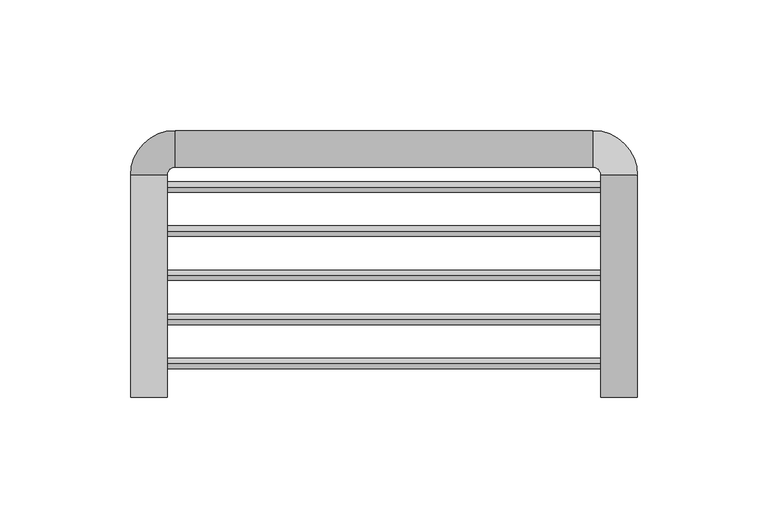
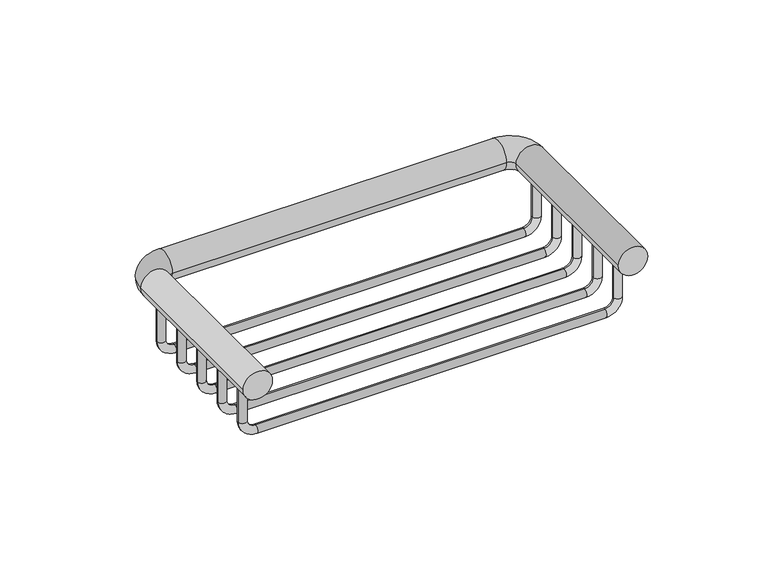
"""IFC4 building model written with IfcOpenShell, lengths in millimetres: flow terminal geometry, jabonera rejilla : jabonera rejilla."""

from ifc_helpers import new_model, si_unit, point, frame, origin, place, context, project, spatial, circle_curve, ellipse_curve, trimmed, source, transform, mapped, element, save
from ifc_brep_helpers import plane_surface, cylinder_surface, revolved_surface, advanced_brep


def flow_terminal_4fa0bb3f(model_context):
    return source(origin(), model_context, "Body", "AdvancedBrep", [
        advanced_brep(
        [(-92.0, 80.3848902, -7.0), (-88.0, 80.3848902, -7.0), (-88.0, 80.3848902, -25.787739), (-92.0, 80.3848902, -25.787739), (-83.787739, 80.3848902, -30.0), (-83.787739, 80.3848902, -34.0), (83.787739, 80.3848902, -30.0), (83.787739, 80.3848902, -34.0), (88.0, 80.3848902, -25.787739), (92.0, 80.3848902, -25.787739), (92.0, 80.3848902, -7.0), (88.0, 80.3848902, -7.0)],
        [
            (0, 1, circle_curve(frame((-90.0, 80.3848902, -7.0), z_axis=(0.0, 0.0, 1.0), x_axis=(1.0, 0.0, 0.0)), 2.0)),
            (1, 0, circle_curve(frame((-90.0, 80.3848902, -7.0), z_axis=(0.0, 0.0, 1.0), x_axis=(1.0, 0.0, 0.0)), 2.0)),
            (1, 2),
            (2, 3, circle_curve(frame((-90.0, 80.3848902, -25.787739), z_axis=(0.0, 0.0, 1.0), x_axis=(1.0, 0.0, 0.0)), 2.0)),
            (3, 0),
            (3, 2, circle_curve(frame((-90.0, 80.3848902, -25.787739), z_axis=(0.0, 0.0, 1.0), x_axis=(1.0, 0.0, 0.0)), 2.0)),
            (4, 5, circle_curve(frame((-83.787739, 80.3848902, -32.0), z_axis=(-1.0, 0.0, 0.0), x_axis=(0.0, 0.0, 1.0)), 2.0)),
            (5, 3, circle_curve(frame((-83.787739, 80.3848902, -25.787739), z_axis=(0.0, 1.0, 0.0), x_axis=(-1.0, 0.0, 0.0)), 8.212261)),
            (2, 4, circle_curve(frame((-83.787739, 80.3848902, -25.787739), z_axis=(0.0, -1.0, 0.0), x_axis=(-1.0, 0.0, 0.0)), 4.212261)),
            (5, 4, circle_curve(frame((-83.787739, 80.3848902, -32.0), z_axis=(-1.0, 0.0, 0.0), x_axis=(0.0, 0.0, 1.0)), 2.0)),
            (4, 6),
            (6, 7, circle_curve(frame((83.787739, 80.3848902, -32.0), z_axis=(-1.0, 0.0, 0.0), x_axis=(0.0, 0.0, 1.0)), 2.0)),
            (7, 5),
            (7, 6, circle_curve(frame((83.787739, 80.3848902, -32.0), z_axis=(-1.0, 0.0, 0.0), x_axis=(0.0, 0.0, 1.0)), 2.0)),
            (8, 9, circle_curve(frame((90.0, 80.3848902, -25.787739), z_axis=(0.0, 0.0, -1.0), x_axis=(-1.0, 0.0, 0.0)), 2.0)),
            (9, 7, circle_curve(frame((83.787739, 80.3848902, -25.787739), z_axis=(0.0, 1.0, 0.0), x_axis=(0.0, 0.0, -1.0)), 8.212261)),
            (6, 8, circle_curve(frame((83.787739, 80.3848902, -25.787739), z_axis=(0.0, -1.0, 0.0), x_axis=(0.0, 0.0, -1.0)), 4.212261)),
            (9, 8, circle_curve(frame((90.0, 80.3848902, -25.787739), z_axis=(0.0, 0.0, -1.0), x_axis=(-1.0, 0.0, 0.0)), 2.0)),
            (10, 11, circle_curve(frame((90.0, 80.3848902, -7.0), z_axis=(0.0, 0.0, 1.0), x_axis=(-1.0, 0.0, 0.0)), 2.0)),
            (11, 10, circle_curve(frame((90.0, 80.3848902, -7.0), z_axis=(0.0, 0.0, 1.0), x_axis=(-1.0, 0.0, 0.0)), 2.0)),
            (8, 11),
            (10, 9),
        ],
        [
            plane_surface(frame((-90.0, 80.3848902, -7.0), z_axis=(0.0, 0.0, 1.0), x_axis=(0.0, 1.0, 0.0))),
            cylinder_surface(frame((-90.0, 80.3848902, -7.0), z_axis=(0.0, 0.0, 1.0), x_axis=(1.0, 0.0, 0.0)), 2.0),
            revolved_surface(trimmed(ellipse_curve(frame((-90.0, 80.3848902, -25.787739), z_axis=(0.0, 0.0, -1.0), x_axis=(1.0, 0.0, 0.0)), 2.0, 2.0), [point((-92.0, 80.3848902, -25.787739))], [point((-88.0, 80.3848902, -25.787739))], True, "CARTESIAN"), (-83.787739, 80.3848902, -25.787739), (0.0, 1.0, 0.0)),
            revolved_surface(trimmed(ellipse_curve(frame((-90.0, 80.3848902, -25.787739), z_axis=(0.0, 0.0, -1.0), x_axis=(1.0, 0.0, 0.0)), 2.0, 2.0), [point((-88.0, 80.3848902, -25.787739))], [point((-92.0, 80.3848902, -25.787739))], True, "CARTESIAN"), (-83.787739, 80.3848902, -25.787739), (0.0, 1.0, 0.0)),
            cylinder_surface(frame((-83.787739, 80.3848902, -32.0), z_axis=(-1.0, 0.0, 0.0), x_axis=(0.0, 0.0, 1.0)), 2.0),
            revolved_surface(trimmed(ellipse_curve(frame((83.787739, 80.3848902, -32.0), z_axis=(1.0, 0.0, 0.0), x_axis=(0.0, 0.0, 1.0)), 2.0, 2.0), [point((83.787739, 80.3848902, -34.0))], [point((83.787739, 80.3848902, -30.0))], True, "CARTESIAN"), (83.787739, 80.3848902, -25.787739), (0.0, 1.0, 0.0)),
            revolved_surface(trimmed(ellipse_curve(frame((83.787739, 80.3848902, -32.0), z_axis=(1.0, 0.0, 0.0), x_axis=(0.0, 0.0, 1.0)), 2.0, 2.0), [point((83.787739, 80.3848902, -30.0))], [point((83.787739, 80.3848902, -34.0))], True, "CARTESIAN"), (83.787739, 80.3848902, -25.787739), (0.0, 1.0, 0.0)),
            plane_surface(frame((90.0, 80.3848902, -7.0), z_axis=(0.0, 0.0, 1.0), x_axis=(0.0, 1.0, 0.0))),
            cylinder_surface(frame((90.0, 80.3848902, -25.787739), z_axis=(0.0, 0.0, -1.0), x_axis=(-1.0, 0.0, 0.0)), 2.0),
        ],
        [
            (0, [[1, 2]]),
            (1, [[3, 4, 5, -2]]),
            (1, [[-5, 6, -3, -1]]),
            (2, [[7, 8, -4, 9]]),
            (3, [[10, -9, -6, -8]]),
            (4, [[11, 12, 13, -7]]),
            (4, [[-13, 14, -11, -10]]),
            (5, [[15, 16, -12, 17]]),
            (6, [[18, -17, -14, -16]]),
            (7, [[19, 20]]),
            (8, [[21, -19, 22, -15]]),
            (8, [[-22, -20, -21, -18]]),
        ],
    ),
        advanced_brep(
        [(-92.0, 63.5030123, -7.0), (-88.0, 63.5030123, -7.0), (-88.0, 63.5030123, -25.787739), (-92.0, 63.5030123, -25.787739), (-83.787739, 63.5030123, -30.0), (-83.787739, 63.5030123, -34.0), (83.787739, 63.5030123, -30.0), (83.787739, 63.5030123, -34.0), (88.0, 63.5030123, -25.787739), (92.0, 63.5030123, -25.787739), (92.0, 63.5030123, -7.0), (88.0, 63.5030123, -7.0)],
        [
            (0, 1, circle_curve(frame((-90.0, 63.5030123, -7.0), z_axis=(0.0, 0.0, 1.0), x_axis=(1.0, 0.0, 0.0)), 2.0)),
            (1, 0, circle_curve(frame((-90.0, 63.5030123, -7.0), z_axis=(0.0, 0.0, 1.0), x_axis=(1.0, 0.0, 0.0)), 2.0)),
            (1, 2),
            (2, 3, circle_curve(frame((-90.0, 63.5030123, -25.787739), z_axis=(0.0, 0.0, 1.0), x_axis=(1.0, 0.0, 0.0)), 2.0)),
            (3, 0),
            (3, 2, circle_curve(frame((-90.0, 63.5030123, -25.787739), z_axis=(0.0, 0.0, 1.0), x_axis=(1.0, 0.0, 0.0)), 2.0)),
            (4, 5, circle_curve(frame((-83.787739, 63.5030123, -32.0), z_axis=(-1.0, 0.0, 0.0), x_axis=(0.0, 0.0, 1.0)), 2.0)),
            (5, 3, circle_curve(frame((-83.787739, 63.5030123, -25.787739), z_axis=(0.0, 1.0, 0.0), x_axis=(-1.0, 0.0, 0.0)), 8.212261)),
            (2, 4, circle_curve(frame((-83.787739, 63.5030123, -25.787739), z_axis=(0.0, -1.0, 0.0), x_axis=(-1.0, 0.0, 0.0)), 4.212261)),
            (5, 4, circle_curve(frame((-83.787739, 63.5030123, -32.0), z_axis=(-1.0, 0.0, 0.0), x_axis=(0.0, 0.0, 1.0)), 2.0)),
            (4, 6),
            (6, 7, circle_curve(frame((83.787739, 63.5030123, -32.0), z_axis=(-1.0, 0.0, 0.0), x_axis=(0.0, 0.0, 1.0)), 2.0)),
            (7, 5),
            (7, 6, circle_curve(frame((83.787739, 63.5030123, -32.0), z_axis=(-1.0, 0.0, 0.0), x_axis=(0.0, 0.0, 1.0)), 2.0)),
            (8, 9, circle_curve(frame((90.0, 63.5030123, -25.787739), z_axis=(0.0, 0.0, -1.0), x_axis=(-1.0, 0.0, 0.0)), 2.0)),
            (9, 7, circle_curve(frame((83.787739, 63.5030123, -25.787739), z_axis=(0.0, 1.0, 0.0), x_axis=(0.0, 0.0, -1.0)), 8.212261)),
            (6, 8, circle_curve(frame((83.787739, 63.5030123, -25.787739), z_axis=(0.0, -1.0, 0.0), x_axis=(0.0, 0.0, -1.0)), 4.212261)),
            (9, 8, circle_curve(frame((90.0, 63.5030123, -25.787739), z_axis=(0.0, 0.0, -1.0), x_axis=(-1.0, 0.0, 0.0)), 2.0)),
            (10, 11, circle_curve(frame((90.0, 63.5030123, -7.0), z_axis=(0.0, 0.0, 1.0), x_axis=(-1.0, 0.0, 0.0)), 2.0)),
            (11, 10, circle_curve(frame((90.0, 63.5030123, -7.0), z_axis=(0.0, 0.0, 1.0), x_axis=(-1.0, 0.0, 0.0)), 2.0)),
            (8, 11),
            (10, 9),
        ],
        [
            plane_surface(frame((-90.0, 63.5030123, -7.0), z_axis=(0.0, 0.0, 1.0), x_axis=(0.0, 1.0, 0.0))),
            cylinder_surface(frame((-90.0, 63.5030123, -7.0), z_axis=(0.0, 0.0, 1.0), x_axis=(1.0, 0.0, 0.0)), 2.0),
            revolved_surface(trimmed(ellipse_curve(frame((-90.0, 63.5030123, -25.787739), z_axis=(0.0, 0.0, -1.0), x_axis=(1.0, 0.0, 0.0)), 2.0, 2.0), [point((-92.0, 63.5030123, -25.787739))], [point((-88.0, 63.5030123, -25.787739))], True, "CARTESIAN"), (-83.787739, 63.5030123, -25.787739), (0.0, 1.0, 0.0)),
            revolved_surface(trimmed(ellipse_curve(frame((-90.0, 63.5030123, -25.787739), z_axis=(0.0, 0.0, -1.0), x_axis=(1.0, 0.0, 0.0)), 2.0, 2.0), [point((-88.0, 63.5030123, -25.787739))], [point((-92.0, 63.5030123, -25.787739))], True, "CARTESIAN"), (-83.787739, 63.5030123, -25.787739), (0.0, 1.0, 0.0)),
            cylinder_surface(frame((-83.787739, 63.5030123, -32.0), z_axis=(-1.0, 0.0, 0.0), x_axis=(0.0, 0.0, 1.0)), 2.0),
            revolved_surface(trimmed(ellipse_curve(frame((83.787739, 63.5030123, -32.0), z_axis=(1.0, 0.0, 0.0), x_axis=(0.0, 0.0, 1.0)), 2.0, 2.0), [point((83.787739, 63.5030123, -34.0))], [point((83.787739, 63.5030123, -30.0))], True, "CARTESIAN"), (83.787739, 63.5030123, -25.787739), (0.0, 1.0, 0.0)),
            revolved_surface(trimmed(ellipse_curve(frame((83.787739, 63.5030123, -32.0), z_axis=(1.0, 0.0, 0.0), x_axis=(0.0, 0.0, 1.0)), 2.0, 2.0), [point((83.787739, 63.5030123, -30.0))], [point((83.787739, 63.5030123, -34.0))], True, "CARTESIAN"), (83.787739, 63.5030123, -25.787739), (0.0, 1.0, 0.0)),
            plane_surface(frame((90.0, 63.5030123, -7.0), z_axis=(0.0, 0.0, 1.0), x_axis=(0.0, 1.0, 0.0))),
            cylinder_surface(frame((90.0, 63.5030123, -25.787739), z_axis=(0.0, 0.0, -1.0), x_axis=(-1.0, 0.0, 0.0)), 2.0),
        ],
        [
            (0, [[1, 2]]),
            (1, [[3, 4, 5, -2]]),
            (1, [[-5, 6, -3, -1]]),
            (2, [[7, 8, -4, 9]]),
            (3, [[10, -9, -6, -8]]),
            (4, [[11, 12, 13, -7]]),
            (4, [[-13, 14, -11, -10]]),
            (5, [[15, 16, -12, 17]]),
            (6, [[18, -17, -14, -16]]),
            (7, [[19, 20]]),
            (8, [[21, -19, 22, -15]]),
            (8, [[-22, -20, -21, -18]]),
        ],
    ),
        advanced_brep(
        [(-92.0, 46.6211345, -7.0), (-88.0, 46.6211345, -7.0), (-88.0, 46.6211345, -25.787739), (-92.0, 46.6211345, -25.787739), (-83.787739, 46.6211345, -30.0), (-83.787739, 46.6211345, -34.0), (83.787739, 46.6211345, -30.0), (83.787739, 46.6211345, -34.0), (88.0, 46.6211345, -25.787739), (92.0, 46.6211345, -25.787739), (92.0, 46.6211345, -7.0), (88.0, 46.6211345, -7.0)],
        [
            (0, 1, circle_curve(frame((-90.0, 46.6211345, -7.0), z_axis=(0.0, 0.0, 1.0), x_axis=(1.0, 0.0, 0.0)), 2.0)),
            (1, 0, circle_curve(frame((-90.0, 46.6211345, -7.0), z_axis=(0.0, 0.0, 1.0), x_axis=(1.0, 0.0, 0.0)), 2.0)),
            (1, 2),
            (2, 3, circle_curve(frame((-90.0, 46.6211345, -25.787739), z_axis=(0.0, 0.0, 1.0), x_axis=(1.0, 0.0, 0.0)), 2.0)),
            (3, 0),
            (3, 2, circle_curve(frame((-90.0, 46.6211345, -25.787739), z_axis=(0.0, 0.0, 1.0), x_axis=(1.0, 0.0, 0.0)), 2.0)),
            (4, 5, circle_curve(frame((-83.787739, 46.6211345, -32.0), z_axis=(-1.0, 0.0, 0.0), x_axis=(0.0, 0.0, 1.0)), 2.0)),
            (5, 3, circle_curve(frame((-83.787739, 46.6211345, -25.787739), z_axis=(0.0, 1.0, 0.0), x_axis=(-1.0, 0.0, 0.0)), 8.212261)),
            (2, 4, circle_curve(frame((-83.787739, 46.6211345, -25.787739), z_axis=(0.0, -1.0, 0.0), x_axis=(-1.0, 0.0, 0.0)), 4.212261)),
            (5, 4, circle_curve(frame((-83.787739, 46.6211345, -32.0), z_axis=(-1.0, 0.0, 0.0), x_axis=(0.0, 0.0, 1.0)), 2.0)),
            (4, 6),
            (6, 7, circle_curve(frame((83.787739, 46.6211345, -32.0), z_axis=(-1.0, 0.0, 0.0), x_axis=(0.0, 0.0, 1.0)), 2.0)),
            (7, 5),
            (7, 6, circle_curve(frame((83.787739, 46.6211345, -32.0), z_axis=(-1.0, 0.0, 0.0), x_axis=(0.0, 0.0, 1.0)), 2.0)),
            (8, 9, circle_curve(frame((90.0, 46.6211345, -25.787739), z_axis=(0.0, 0.0, -1.0), x_axis=(-1.0, 0.0, 0.0)), 2.0)),
            (9, 7, circle_curve(frame((83.787739, 46.6211345, -25.787739), z_axis=(0.0, 1.0, 0.0), x_axis=(0.0, 0.0, -1.0)), 8.212261)),
            (6, 8, circle_curve(frame((83.787739, 46.6211345, -25.787739), z_axis=(0.0, -1.0, 0.0), x_axis=(0.0, 0.0, -1.0)), 4.212261)),
            (9, 8, circle_curve(frame((90.0, 46.6211345, -25.787739), z_axis=(0.0, 0.0, -1.0), x_axis=(-1.0, 0.0, 0.0)), 2.0)),
            (10, 11, circle_curve(frame((90.0, 46.6211345, -7.0), z_axis=(0.0, 0.0, 1.0), x_axis=(-1.0, 0.0, 0.0)), 2.0)),
            (11, 10, circle_curve(frame((90.0, 46.6211345, -7.0), z_axis=(0.0, 0.0, 1.0), x_axis=(-1.0, 0.0, 0.0)), 2.0)),
            (8, 11),
            (10, 9),
        ],
        [
            plane_surface(frame((-90.0, 46.6211345, -7.0), z_axis=(0.0, 0.0, 1.0), x_axis=(0.0, 1.0, 0.0))),
            cylinder_surface(frame((-90.0, 46.6211345, -7.0), z_axis=(0.0, 0.0, 1.0), x_axis=(1.0, 0.0, 0.0)), 2.0),
            revolved_surface(trimmed(ellipse_curve(frame((-90.0, 46.6211345, -25.787739), z_axis=(0.0, 0.0, -1.0), x_axis=(1.0, 0.0, 0.0)), 2.0, 2.0), [point((-92.0, 46.6211345, -25.787739))], [point((-88.0, 46.6211345, -25.787739))], True, "CARTESIAN"), (-83.787739, 46.6211345, -25.787739), (0.0, 1.0, 0.0)),
            revolved_surface(trimmed(ellipse_curve(frame((-90.0, 46.6211345, -25.787739), z_axis=(0.0, 0.0, -1.0), x_axis=(1.0, 0.0, 0.0)), 2.0, 2.0), [point((-88.0, 46.6211345, -25.787739))], [point((-92.0, 46.6211345, -25.787739))], True, "CARTESIAN"), (-83.787739, 46.6211345, -25.787739), (0.0, 1.0, 0.0)),
            cylinder_surface(frame((-83.787739, 46.6211345, -32.0), z_axis=(-1.0, 0.0, 0.0), x_axis=(0.0, 0.0, 1.0)), 2.0),
            revolved_surface(trimmed(ellipse_curve(frame((83.787739, 46.6211345, -32.0), z_axis=(1.0, 0.0, 0.0), x_axis=(0.0, 0.0, 1.0)), 2.0, 2.0), [point((83.787739, 46.6211345, -34.0))], [point((83.787739, 46.6211345, -30.0))], True, "CARTESIAN"), (83.787739, 46.6211345, -25.787739), (0.0, 1.0, 0.0)),
            revolved_surface(trimmed(ellipse_curve(frame((83.787739, 46.6211345, -32.0), z_axis=(1.0, 0.0, 0.0), x_axis=(0.0, 0.0, 1.0)), 2.0, 2.0), [point((83.787739, 46.6211345, -30.0))], [point((83.787739, 46.6211345, -34.0))], True, "CARTESIAN"), (83.787739, 46.6211345, -25.787739), (0.0, 1.0, 0.0)),
            plane_surface(frame((90.0, 46.6211345, -7.0), z_axis=(0.0, 0.0, 1.0), x_axis=(0.0, 1.0, 0.0))),
            cylinder_surface(frame((90.0, 46.6211345, -25.787739), z_axis=(0.0, 0.0, -1.0), x_axis=(-1.0, 0.0, 0.0)), 2.0),
        ],
        [
            (0, [[1, 2]]),
            (1, [[3, 4, 5, -2]]),
            (1, [[-5, 6, -3, -1]]),
            (2, [[7, 8, -4, 9]]),
            (3, [[10, -9, -6, -8]]),
            (4, [[11, 12, 13, -7]]),
            (4, [[-13, 14, -11, -10]]),
            (5, [[15, 16, -12, 17]]),
            (6, [[18, -17, -14, -16]]),
            (7, [[19, 20]]),
            (8, [[21, -19, 22, -15]]),
            (8, [[-22, -20, -21, -18]]),
        ],
    ),
        advanced_brep(
        [(-92.0, 29.7392566, -7.0), (-88.0, 29.7392566, -7.0), (-88.0, 29.7392566, -25.787739), (-92.0, 29.7392566, -25.787739), (-83.787739, 29.7392566, -30.0), (-83.787739, 29.7392566, -34.0), (83.787739, 29.7392566, -30.0), (83.787739, 29.7392566, -34.0), (88.0, 29.7392566, -25.787739), (92.0, 29.7392566, -25.787739), (92.0, 29.7392566, -7.0), (88.0, 29.7392566, -7.0)],
        [
            (0, 1, circle_curve(frame((-90.0, 29.7392566, -7.0), z_axis=(0.0, 0.0, 1.0), x_axis=(1.0, 0.0, 0.0)), 2.0)),
            (1, 0, circle_curve(frame((-90.0, 29.7392566, -7.0), z_axis=(0.0, 0.0, 1.0), x_axis=(1.0, 0.0, 0.0)), 2.0)),
            (1, 2),
            (2, 3, circle_curve(frame((-90.0, 29.7392566, -25.787739), z_axis=(0.0, 0.0, 1.0), x_axis=(1.0, 0.0, 0.0)), 2.0)),
            (3, 0),
            (3, 2, circle_curve(frame((-90.0, 29.7392566, -25.787739), z_axis=(0.0, 0.0, 1.0), x_axis=(1.0, 0.0, 0.0)), 2.0)),
            (4, 5, circle_curve(frame((-83.787739, 29.7392566, -32.0), z_axis=(-1.0, 0.0, 0.0), x_axis=(0.0, 0.0, 1.0)), 2.0)),
            (5, 3, circle_curve(frame((-83.787739, 29.7392566, -25.787739), z_axis=(0.0, 1.0, 0.0), x_axis=(-1.0, 0.0, 0.0)), 8.212261)),
            (2, 4, circle_curve(frame((-83.787739, 29.7392566, -25.787739), z_axis=(0.0, -1.0, 0.0), x_axis=(-1.0, 0.0, 0.0)), 4.212261)),
            (5, 4, circle_curve(frame((-83.787739, 29.7392566, -32.0), z_axis=(-1.0, 0.0, 0.0), x_axis=(0.0, 0.0, 1.0)), 2.0)),
            (4, 6),
            (6, 7, circle_curve(frame((83.787739, 29.7392566, -32.0), z_axis=(-1.0, 0.0, 0.0), x_axis=(0.0, 0.0, 1.0)), 2.0)),
            (7, 5),
            (7, 6, circle_curve(frame((83.787739, 29.7392566, -32.0), z_axis=(-1.0, 0.0, 0.0), x_axis=(0.0, 0.0, 1.0)), 2.0)),
            (8, 9, circle_curve(frame((90.0, 29.7392566, -25.787739), z_axis=(0.0, 0.0, -1.0), x_axis=(-1.0, 0.0, 0.0)), 2.0)),
            (9, 7, circle_curve(frame((83.787739, 29.7392566, -25.787739), z_axis=(0.0, 1.0, 0.0), x_axis=(0.0, 0.0, -1.0)), 8.212261)),
            (6, 8, circle_curve(frame((83.787739, 29.7392566, -25.787739), z_axis=(0.0, -1.0, 0.0), x_axis=(0.0, 0.0, -1.0)), 4.212261)),
            (9, 8, circle_curve(frame((90.0, 29.7392566, -25.787739), z_axis=(0.0, 0.0, -1.0), x_axis=(-1.0, 0.0, 0.0)), 2.0)),
            (10, 11, circle_curve(frame((90.0, 29.7392566, -7.0), z_axis=(0.0, 0.0, 1.0), x_axis=(-1.0, 0.0, 0.0)), 2.0)),
            (11, 10, circle_curve(frame((90.0, 29.7392566, -7.0), z_axis=(0.0, 0.0, 1.0), x_axis=(-1.0, 0.0, 0.0)), 2.0)),
            (8, 11),
            (10, 9),
        ],
        [
            plane_surface(frame((-90.0, 29.7392566, -7.0), z_axis=(0.0, 0.0, 1.0), x_axis=(0.0, 1.0, 0.0))),
            cylinder_surface(frame((-90.0, 29.7392566, -7.0), z_axis=(0.0, 0.0, 1.0), x_axis=(1.0, 0.0, 0.0)), 2.0),
            revolved_surface(trimmed(ellipse_curve(frame((-90.0, 29.7392566, -25.787739), z_axis=(0.0, 0.0, -1.0), x_axis=(1.0, 0.0, 0.0)), 2.0, 2.0), [point((-92.0, 29.7392566, -25.787739))], [point((-88.0, 29.7392566, -25.787739))], True, "CARTESIAN"), (-83.787739, 29.7392566, -25.787739), (0.0, 1.0, 0.0)),
            revolved_surface(trimmed(ellipse_curve(frame((-90.0, 29.7392566, -25.787739), z_axis=(0.0, 0.0, -1.0), x_axis=(1.0, 0.0, 0.0)), 2.0, 2.0), [point((-88.0, 29.7392566, -25.787739))], [point((-92.0, 29.7392566, -25.787739))], True, "CARTESIAN"), (-83.787739, 29.7392566, -25.787739), (0.0, 1.0, 0.0)),
            cylinder_surface(frame((-83.787739, 29.7392566, -32.0), z_axis=(-1.0, 0.0, 0.0), x_axis=(0.0, 0.0, 1.0)), 2.0),
            revolved_surface(trimmed(ellipse_curve(frame((83.787739, 29.7392566, -32.0), z_axis=(1.0, 0.0, 0.0), x_axis=(0.0, 0.0, 1.0)), 2.0, 2.0), [point((83.787739, 29.7392566, -34.0))], [point((83.787739, 29.7392566, -30.0))], True, "CARTESIAN"), (83.787739, 29.7392566, -25.787739), (0.0, 1.0, 0.0)),
            revolved_surface(trimmed(ellipse_curve(frame((83.787739, 29.7392566, -32.0), z_axis=(1.0, 0.0, 0.0), x_axis=(0.0, 0.0, 1.0)), 2.0, 2.0), [point((83.787739, 29.7392566, -30.0))], [point((83.787739, 29.7392566, -34.0))], True, "CARTESIAN"), (83.787739, 29.7392566, -25.787739), (0.0, 1.0, 0.0)),
            plane_surface(frame((90.0, 29.7392566, -7.0), z_axis=(0.0, 0.0, 1.0), x_axis=(0.0, 1.0, 0.0))),
            cylinder_surface(frame((90.0, 29.7392566, -25.787739), z_axis=(0.0, 0.0, -1.0), x_axis=(-1.0, 0.0, 0.0)), 2.0),
        ],
        [
            (0, [[1, 2]]),
            (1, [[3, 4, 5, -2]]),
            (1, [[-5, 6, -3, -1]]),
            (2, [[7, 8, -4, 9]]),
            (3, [[10, -9, -6, -8]]),
            (4, [[11, 12, 13, -7]]),
            (4, [[-13, 14, -11, -10]]),
            (5, [[15, 16, -12, 17]]),
            (6, [[18, -17, -14, -16]]),
            (7, [[19, 20]]),
            (8, [[21, -19, 22, -15]]),
            (8, [[-22, -20, -21, -18]]),
        ],
    ),
        advanced_brep(
        [(-92.0, 12.8573787, -7.0), (-88.0, 12.8573787, -7.0), (-88.0, 12.8573787, -25.787739), (-92.0, 12.8573787, -25.787739), (-83.787739, 12.8573787, -30.0), (-83.787739, 12.8573787, -34.0), (83.787739, 12.8573787, -30.0), (83.787739, 12.8573787, -34.0), (88.0, 12.8573787, -25.787739), (92.0, 12.8573787, -25.787739), (92.0, 12.8573787, -7.0), (88.0, 12.8573787, -7.0)],
        [
            (0, 1, circle_curve(frame((-90.0, 12.8573787, -7.0), z_axis=(0.0, 0.0, 1.0), x_axis=(1.0, 0.0, 0.0)), 2.0)),
            (1, 0, circle_curve(frame((-90.0, 12.8573787, -7.0), z_axis=(0.0, 0.0, 1.0), x_axis=(1.0, 0.0, 0.0)), 2.0)),
            (1, 2),
            (2, 3, circle_curve(frame((-90.0, 12.8573787, -25.787739), z_axis=(0.0, 0.0, 1.0), x_axis=(1.0, 0.0, 0.0)), 2.0)),
            (3, 0),
            (3, 2, circle_curve(frame((-90.0, 12.8573787, -25.787739), z_axis=(0.0, 0.0, 1.0), x_axis=(1.0, 0.0, 0.0)), 2.0)),
            (4, 5, circle_curve(frame((-83.787739, 12.8573787, -32.0), z_axis=(-1.0, 0.0, 0.0), x_axis=(0.0, 0.0, 1.0)), 2.0)),
            (5, 3, circle_curve(frame((-83.787739, 12.8573787, -25.787739), z_axis=(0.0, 1.0, 0.0), x_axis=(-1.0, 0.0, 0.0)), 8.212261)),
            (2, 4, circle_curve(frame((-83.787739, 12.8573787, -25.787739), z_axis=(0.0, -1.0, 0.0), x_axis=(-1.0, 0.0, 0.0)), 4.212261)),
            (5, 4, circle_curve(frame((-83.787739, 12.8573787, -32.0), z_axis=(-1.0, 0.0, 0.0), x_axis=(0.0, 0.0, 1.0)), 2.0)),
            (4, 6),
            (6, 7, circle_curve(frame((83.787739, 12.8573787, -32.0), z_axis=(-1.0, 0.0, 0.0), x_axis=(0.0, 0.0, 1.0)), 2.0)),
            (7, 5),
            (7, 6, circle_curve(frame((83.787739, 12.8573787, -32.0), z_axis=(-1.0, 0.0, 0.0), x_axis=(0.0, 0.0, 1.0)), 2.0)),
            (8, 9, circle_curve(frame((90.0, 12.8573787, -25.787739), z_axis=(0.0, 0.0, -1.0), x_axis=(-1.0, 0.0, 0.0)), 2.0)),
            (9, 7, circle_curve(frame((83.787739, 12.8573787, -25.787739), z_axis=(0.0, 1.0, 0.0), x_axis=(0.0, 0.0, -1.0)), 8.212261)),
            (6, 8, circle_curve(frame((83.787739, 12.8573787, -25.787739), z_axis=(0.0, -1.0, 0.0), x_axis=(0.0, 0.0, -1.0)), 4.212261)),
            (9, 8, circle_curve(frame((90.0, 12.8573787, -25.787739), z_axis=(0.0, 0.0, -1.0), x_axis=(-1.0, 0.0, 0.0)), 2.0)),
            (10, 11, circle_curve(frame((90.0, 12.8573787, -7.0), z_axis=(0.0, 0.0, 1.0), x_axis=(-1.0, 0.0, 0.0)), 2.0)),
            (11, 10, circle_curve(frame((90.0, 12.8573787, -7.0), z_axis=(0.0, 0.0, 1.0), x_axis=(-1.0, 0.0, 0.0)), 2.0)),
            (8, 11),
            (10, 9),
        ],
        [
            plane_surface(frame((-90.0, 12.8573787, -7.0), z_axis=(0.0, 0.0, 1.0), x_axis=(0.0, 1.0, 0.0))),
            cylinder_surface(frame((-90.0, 12.8573787, -7.0), z_axis=(0.0, 0.0, 1.0), x_axis=(1.0, 0.0, 0.0)), 2.0),
            revolved_surface(trimmed(ellipse_curve(frame((-90.0, 12.8573787, -25.787739), z_axis=(0.0, 0.0, -1.0), x_axis=(1.0, 0.0, 0.0)), 2.0, 2.0), [point((-92.0, 12.8573787, -25.787739))], [point((-88.0, 12.8573787, -25.787739))], True, "CARTESIAN"), (-83.787739, 12.8573787, -25.787739), (0.0, 1.0, 0.0)),
            revolved_surface(trimmed(ellipse_curve(frame((-90.0, 12.8573787, -25.787739), z_axis=(0.0, 0.0, -1.0), x_axis=(1.0, 0.0, 0.0)), 2.0, 2.0), [point((-88.0, 12.8573787, -25.787739))], [point((-92.0, 12.8573787, -25.787739))], True, "CARTESIAN"), (-83.787739, 12.8573787, -25.787739), (0.0, 1.0, 0.0)),
            cylinder_surface(frame((-83.787739, 12.8573787, -32.0), z_axis=(-1.0, 0.0, 0.0), x_axis=(0.0, 0.0, 1.0)), 2.0),
            revolved_surface(trimmed(ellipse_curve(frame((83.787739, 12.8573787, -32.0), z_axis=(1.0, 0.0, 0.0), x_axis=(0.0, 0.0, 1.0)), 2.0, 2.0), [point((83.787739, 12.8573787, -34.0))], [point((83.787739, 12.8573787, -30.0))], True, "CARTESIAN"), (83.787739, 12.8573787, -25.787739), (0.0, 1.0, 0.0)),
            revolved_surface(trimmed(ellipse_curve(frame((83.787739, 12.8573787, -32.0), z_axis=(1.0, 0.0, 0.0), x_axis=(0.0, 0.0, 1.0)), 2.0, 2.0), [point((83.787739, 12.8573787, -30.0))], [point((83.787739, 12.8573787, -34.0))], True, "CARTESIAN"), (83.787739, 12.8573787, -25.787739), (0.0, 1.0, 0.0)),
            plane_surface(frame((90.0, 12.8573787, -7.0), z_axis=(0.0, 0.0, 1.0), x_axis=(0.0, 1.0, 0.0))),
            cylinder_surface(frame((90.0, 12.8573787, -25.787739), z_axis=(0.0, 0.0, -1.0), x_axis=(-1.0, 0.0, 0.0)), 2.0),
        ],
        [
            (0, [[1, 2]]),
            (1, [[3, 4, 5, -2]]),
            (1, [[-5, 6, -3, -1]]),
            (2, [[7, 8, -4, 9]]),
            (3, [[10, -9, -6, -8]]),
            (4, [[11, 12, 13, -7]]),
            (4, [[-13, 14, -11, -10]]),
            (5, [[15, 16, -12, 17]]),
            (6, [[18, -17, -14, -16]]),
            (7, [[19, 20]]),
            (8, [[21, -19, 22, -15]]),
            (8, [[-22, -20, -21, -18]]),
        ],
    ),
        advanced_brep(
        [(-83.0, 0.0, 0.0), (-97.0, 0.0, 0.0), (-97.0, 85.0, 0.0), (-83.0, 85.0, 0.0), (-80.0, 102.0, 0.0), (80.0, 102.0, 0.0), (80.0, 88.0, 0.0), (-80.0, 88.0, 0.0), (83.0, 0.0, 0.0), (97.0, 0.0, 0.0), (97.0, 85.0, 0.0), (83.0, 85.0, 0.0)],
        [
            (0, 1, circle_curve(frame((-90.0, 0.0, 0.0), z_axis=(0.0, -1.0, 0.0), x_axis=(-1.0, 0.0, 0.0)), 7.0)),
            (1, 0, circle_curve(frame((-90.0, 0.0, 0.0), z_axis=(0.0, -1.0, 0.0), x_axis=(-1.0, 0.0, 0.0)), 7.0)),
            (1, 2),
            (2, 3, circle_curve(frame((-90.0, 85.0, 0.0), z_axis=(0.0, -1.0, 0.0), x_axis=(-1.0, 0.0, 0.0)), 7.0)),
            (3, 0),
            (3, 2, circle_curve(frame((-90.0, 85.0, 0.0), z_axis=(0.0, -1.0, 0.0), x_axis=(-1.0, 0.0, 0.0)), 7.0)),
            (4, 5),
            (5, 6, circle_curve(frame((80.0, 95.0, 0.0), z_axis=(-1.0, 0.0, 0.0), x_axis=(0.0, 1.0, 0.0)), 7.0)),
            (6, 7),
            (7, 4, circle_curve(frame((-80.0, 95.0, 0.0), z_axis=(1.0, 0.0, 0.0), x_axis=(0.0, 1.0, 0.0)), 7.0)),
            (6, 5, circle_curve(frame((80.0, 95.0, 0.0), z_axis=(-1.0, 0.0, 0.0), x_axis=(0.0, 1.0, 0.0)), 7.0)),
            (4, 7, circle_curve(frame((-80.0, 95.0, 0.0), z_axis=(1.0, 0.0, 0.0), x_axis=(0.0, 1.0, 0.0)), 7.0)),
            (8, 9, circle_curve(frame((90.0, 0.0, 0.0), z_axis=(0.0, -1.0, 0.0), x_axis=(1.0, 0.0, 0.0)), 7.0)),
            (9, 8, circle_curve(frame((90.0, 0.0, 0.0), z_axis=(0.0, -1.0, 0.0), x_axis=(1.0, 0.0, 0.0)), 7.0)),
            (10, 9),
            (8, 11),
            (11, 10, circle_curve(frame((90.0, 85.0, 0.0), z_axis=(0.0, -1.0, 0.0), x_axis=(1.0, 0.0, 0.0)), 7.0)),
            (10, 11, circle_curve(frame((90.0, 85.0, 0.0), z_axis=(0.0, -1.0, 0.0), x_axis=(1.0, 0.0, 0.0)), 7.0)),
            (7, 3, circle_curve(frame((-80.0, 85.0, 0.0), z_axis=(0.0, 0.0, 1.0), x_axis=(-1.0, 0.0, 0.0)), 3.0)),
            (2, 4, circle_curve(frame((-80.0, 85.0, 0.0), z_axis=(0.0, 0.0, -1.0), x_axis=(-1.0, 0.0, 0.0)), 17.0)),
            (11, 6, circle_curve(frame((80.0, 85.0, 0.0), z_axis=(0.0, 0.0, 1.0), x_axis=(0.0, 1.0, 0.0)), 3.0)),
            (5, 10, circle_curve(frame((80.0, 85.0, 0.0), z_axis=(0.0, 0.0, -1.0), x_axis=(0.0, 1.0, 0.0)), 17.0)),
        ],
        [
            plane_surface(frame((-90.0, 0.0, 0.0), z_axis=(0.0, -1.0, 0.0), x_axis=(0.0, 0.0, 1.0))),
            cylinder_surface(frame((-90.0, 0.0, 0.0), z_axis=(0.0, -1.0, 0.0), x_axis=(-1.0, 0.0, 0.0)), 7.0),
            cylinder_surface(frame((-80.0, 95.0, 0.0), z_axis=(-1.0, 0.0, 0.0), x_axis=(0.0, 1.0, 0.0)), 7.0),
            plane_surface(frame((90.0, 0.0, 0.0), z_axis=(0.0, -1.0, 0.0), x_axis=(0.0, 0.0, 1.0))),
            cylinder_surface(frame((90.0, 85.0, 0.0), z_axis=(0.0, 1.0, 0.0), x_axis=(1.0, 0.0, 0.0)), 7.0),
            revolved_surface(trimmed(ellipse_curve(frame((-90.0, 85.0, 0.0), z_axis=(0.0, 1.0, 0.0), x_axis=(-1.0, 0.0, 0.0)), 7.0, 7.0), [point((-83.0, 85.0, 0.0))], [point((-97.0, 85.0, 0.0))], True, "CARTESIAN"), (-80.0, 85.0, 0.0), (0.0, 0.0, 1.0)),
            revolved_surface(trimmed(ellipse_curve(frame((-90.0, 85.0, 0.0), z_axis=(0.0, 1.0, 0.0), x_axis=(-1.0, 0.0, 0.0)), 7.0, 7.0), [point((-97.0, 85.0, 0.0))], [point((-83.0, 85.0, 0.0))], True, "CARTESIAN"), (-80.0, 85.0, 0.0), (0.0, 0.0, 1.0)),
            revolved_surface(trimmed(ellipse_curve(frame((80.0, 95.0, 0.0), z_axis=(1.0, 0.0, 0.0), x_axis=(0.0, 1.0, 0.0)), 7.0, 7.0), [point((80.0, 88.0, 0.0))], [point((80.0, 102.0, 0.0))], True, "CARTESIAN"), (80.0, 85.0, 0.0), (0.0, 0.0, 1.0)),
            revolved_surface(trimmed(ellipse_curve(frame((80.0, 95.0, 0.0), z_axis=(1.0, 0.0, 0.0), x_axis=(0.0, 1.0, 0.0)), 7.0, 7.0), [point((80.0, 102.0, 0.0))], [point((80.0, 88.0, 0.0))], True, "CARTESIAN"), (80.0, 85.0, 0.0), (0.0, 0.0, 1.0)),
        ],
        [
            (0, [[1, 2]]),
            (1, [[3, 4, 5, -2]]),
            (1, [[-5, 6, -3, -1]]),
            (2, [[7, 8, 9, 10]]),
            (2, [[-9, 11, -7, 12]]),
            (3, [[13, 14]]),
            (4, [[15, -13, 16, 17]]),
            (4, [[-16, -14, -15, 18]]),
            (5, [[-10, 19, -4, 20]]),
            (6, [[-12, -20, -6, -19]]),
            (7, [[-17, 21, -8, 22]]),
            (8, [[-18, -22, -11, -21]]),
        ],
    ),
    ])


if __name__ == "__main__":
    model = new_model("IFC4")
    model_context = context("Model", 3, world=origin())
    ifc_project = project(units=[si_unit("LENGTHUNIT", "METRE", prefix="MILLI")], contexts=[model_context])
    site = spatial("IfcSite", under=ifc_project)
    building = spatial("IfcBuilding", under=site)
    placement = place(None, origin())
    flow_terminal_shape = flow_terminal_4fa0bb3f(model_context)
    element("IfcFlowTerminal", 1, ObjectType="jabonera rejilla : jabonera rejilla", at=placement, inside=building, context=model_context, shape_type="MappedRepresentation", body=[
        mapped(flow_terminal_shape, transform((0.0, 0.0, 0.0), x_axis=(1.0, 0.0, 0.0), y_axis=(0.0, 1.0, 0.0), z_axis=(0.0, 0.0, 1.0))),
    ])
    save(model, "model.ifc")
